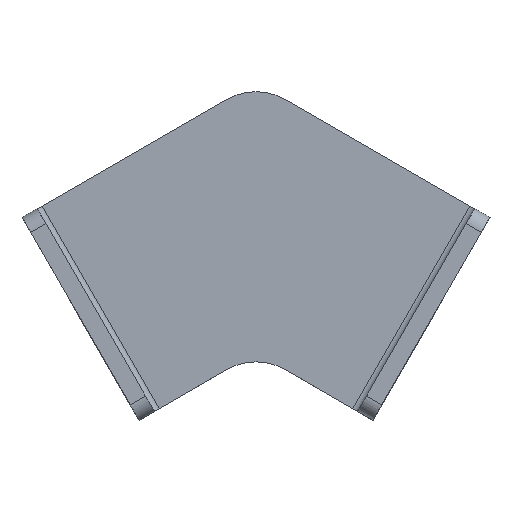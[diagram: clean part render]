
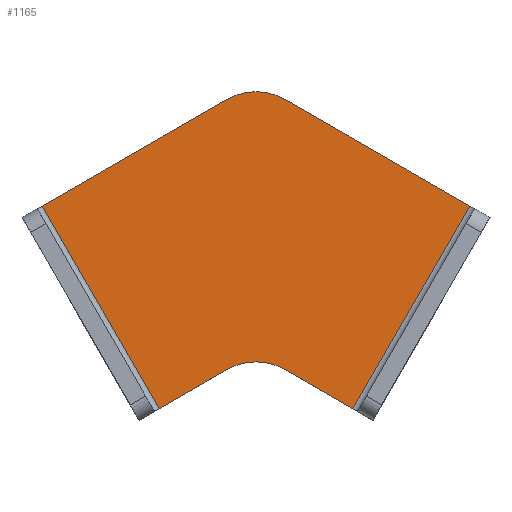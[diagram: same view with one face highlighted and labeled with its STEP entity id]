
A CAD part, top view. The second image highlights one B-rep face of the part: STEP entity #1165.
In plain terms, the highlighted planar face has unit normal (0, 0, 1).
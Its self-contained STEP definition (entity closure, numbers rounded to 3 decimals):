
#3 = EDGE_CURVE ( 'NONE', #1136, #388, #346, .T. ) ;
#22 = CARTESIAN_POINT ( 'NONE',  ( 3.464, 2., 3. ) ) ;
#44 = CARTESIAN_POINT ( 'NONE',  ( 20., 0., 3. ) ) ;
#45 = VECTOR ( 'NONE', #621, 1000. ) ;
#63 = DIRECTION ( 'NONE',  ( -0.866, -0.5, 0. ) ) ;
#100 = ORIENTED_EDGE ( 'NONE', *, *, #1079, .T. ) ;
#102 = VERTEX_POINT ( 'NONE', #126 ) ;
#108 = VECTOR ( 'NONE', #873, 1000. ) ;
#123 = VECTOR ( 'NONE', #1121, 1000. ) ;
#126 = CARTESIAN_POINT ( 'NONE',  ( 15., 54.848, 3. ) ) ;
#135 = DIRECTION ( 'NONE',  ( 1., 0., 0. ) ) ;
#138 = EDGE_CURVE ( 'NONE', #357, #102, #803, .T. ) ;
#142 = DIRECTION ( 'NONE',  ( -0.866, 0.5, 0. ) ) ;
#143 = CARTESIAN_POINT ( 'NONE',  ( 25., 8.66, 3. ) ) ;
#158 = EDGE_LOOP ( 'NONE', ( #1010, #664, #883, #647, #531, #716, #100, #221 ) ) ;
#185 = VERTEX_POINT ( 'NONE', #298 ) ;
#212 = CARTESIAN_POINT ( 'NONE',  ( 25., 54.848, 3. ) ) ;
#219 = LINE ( 'NONE', #670, #656 ) ;
#221 = ORIENTED_EDGE ( 'NONE', *, *, #138, .T. ) ;
#235 = EDGE_CURVE ( 'NONE', #388, #321, #274, .T. ) ;
#253 = DIRECTION ( 'NONE',  ( 0., 0., 1. ) ) ;
#274 = CIRCLE ( 'NONE', #690, 10. ) ;
#281 = LINE ( 'NONE', #356, #45 ) ;
#298 = CARTESIAN_POINT ( 'NONE',  ( 56.536, 36.641, 3. ) ) ;
#321 = VERTEX_POINT ( 'NONE', #143 ) ;
#346 = LINE ( 'NONE', #1141, #108 ) ;
#356 = CARTESIAN_POINT ( 'NONE',  ( 3.464, 2., 3. ) ) ;
#357 = VERTEX_POINT ( 'NONE', #212 ) ;
#388 = VERTEX_POINT ( 'NONE', #946 ) ;
#392 = DIRECTION ( 'NONE',  ( 1., 0., 0. ) ) ;
#407 = EDGE_CURVE ( 'NONE', #102, #574, #219, .T. ) ;
#458 = AXIS2_PLACEMENT_3D ( 'NONE', #878, #253, #792 ) ;
#475 = PLANE ( 'NONE',  #619 ) ;
#515 = VECTOR ( 'NONE', #922, 1000. ) ;
#531 = ORIENTED_EDGE ( 'NONE', *, *, #1140, .T. ) ;
#559 = CARTESIAN_POINT ( 'NONE',  ( 40., 0., 3. ) ) ;
#574 = VERTEX_POINT ( 'NONE', #706 ) ;
#588 = CARTESIAN_POINT ( 'NONE',  ( 26.536, -15.321, 3. ) ) ;
#596 = LINE ( 'NONE', #668, #1073 ) ;
#619 = AXIS2_PLACEMENT_3D ( 'NONE', #649, #930, #392 ) ;
#621 = DIRECTION ( 'NONE',  ( 0.5, -0.866, 0. ) ) ;
#647 = ORIENTED_EDGE ( 'NONE', *, *, #235, .T. ) ;
#649 = CARTESIAN_POINT ( 'NONE',  ( 0., 0., 3. ) ) ;
#656 = VECTOR ( 'NONE', #63, 1000. ) ;
#664 = ORIENTED_EDGE ( 'NONE', *, *, #843, .T. ) ;
#665 = DIRECTION ( 'NONE',  ( 0., 0., -1. ) ) ;
#668 = CARTESIAN_POINT ( 'NONE',  ( 60., 34.641, 3. ) ) ;
#670 = CARTESIAN_POINT ( 'NONE',  ( -20., 34.641, 3. ) ) ;
#690 = AXIS2_PLACEMENT_3D ( 'NONE', #44, #665, #135 ) ;
#706 = CARTESIAN_POINT ( 'NONE',  ( -16.536, 36.641, 3. ) ) ;
#716 = ORIENTED_EDGE ( 'NONE', *, *, #1086, .T. ) ;
#756 = LINE ( 'NONE', #559, #515 ) ;
#784 = FACE_OUTER_BOUND ( 'NONE', #158, .T. ) ;
#792 = DIRECTION ( 'NONE',  ( 1., 0., 0. ) ) ;
#803 = CIRCLE ( 'NONE', #458, 10. ) ;
#839 = VERTEX_POINT ( 'NONE', #989 ) ;
#840 = LINE ( 'NONE', #588, #123 ) ;
#843 = EDGE_CURVE ( 'NONE', #574, #1136, #281, .T. ) ;
#873 = DIRECTION ( 'NONE',  ( 0.866, 0.5, 0. ) ) ;
#878 = CARTESIAN_POINT ( 'NONE',  ( 20., 46.188, 3. ) ) ;
#883 = ORIENTED_EDGE ( 'NONE', *, *, #3, .T. ) ;
#922 = DIRECTION ( 'NONE',  ( 0.866, -0.5, 0. ) ) ;
#930 = DIRECTION ( 'NONE',  ( 0., 0., 1. ) ) ;
#946 = CARTESIAN_POINT ( 'NONE',  ( 15., 8.66, 3. ) ) ;
#989 = CARTESIAN_POINT ( 'NONE',  ( 36.536, 2., 3. ) ) ;
#1010 = ORIENTED_EDGE ( 'NONE', *, *, #407, .T. ) ;
#1073 = VECTOR ( 'NONE', #142, 1000. ) ;
#1079 = EDGE_CURVE ( 'NONE', #185, #357, #596, .T. ) ;
#1086 = EDGE_CURVE ( 'NONE', #839, #185, #840, .T. ) ;
#1121 = DIRECTION ( 'NONE',  ( 0.5, 0.866, 0. ) ) ;
#1136 = VERTEX_POINT ( 'NONE', #22 ) ;
#1140 = EDGE_CURVE ( 'NONE', #321, #839, #756, .T. ) ;
#1141 = CARTESIAN_POINT ( 'NONE',  ( 0., 0., 3. ) ) ;
#1165 = ADVANCED_FACE ( 'NONE', ( #784 ), #475, .T. ) ;
